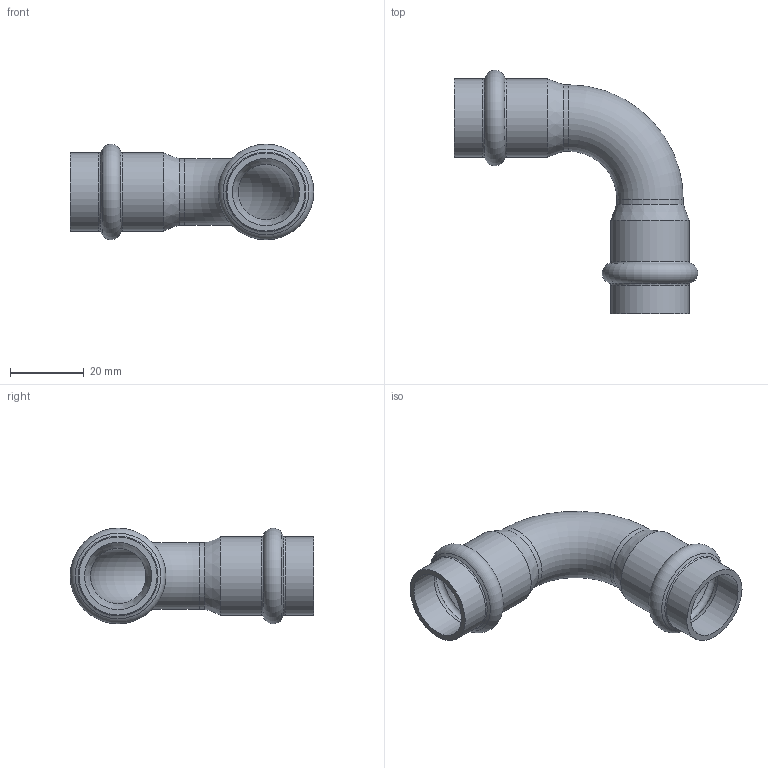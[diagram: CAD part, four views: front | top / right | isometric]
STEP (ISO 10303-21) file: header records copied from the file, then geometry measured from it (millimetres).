
FILE_DESCRIPTION((''),'2;1');
FILE_NAME('G:\Nirosan-Schmiedefeld\Technics\CAD\Bauteile VA\018\69002A18(1).stp','2011-10-26T13:31:26',('herberg'),(''),'Autodesk Inventor 2009','Autodesk Inventor 2009','');
FILE_SCHEMA(('AUTOMOTIVE_DESIGN { 1 0 10303 214 1 1 1 1 }'));
Length unit declared in the file: millimetre
Products named in the file (1): 69002A18(1)
Bounding box: 65.94 x 65.95 x 25.9 mm (x, y, z)
Volume: 8958.7 mm3; surface area: 12130.3 mm2
Topology: 1 solids, 1 shells, 36 faces, 77 edges, 43 vertices
Faces by surface type: cylinder 12, cone 8, bspline 8, torus 6, plane 2
Full cylindrical faces by diameter (mm): 15 x2, 18 x2, 18.15 x4, 21.15 x4
Entity records: 1074 total; most frequent: CARTESIAN_POINT 461, DIRECTION 130, ORIENTED_EDGE 72, EDGE_LOOP 72, AXIS2_PLACEMENT_3D 65, VERTEX_POINT 36, CIRCLE 36, EDGE_CURVE 36
